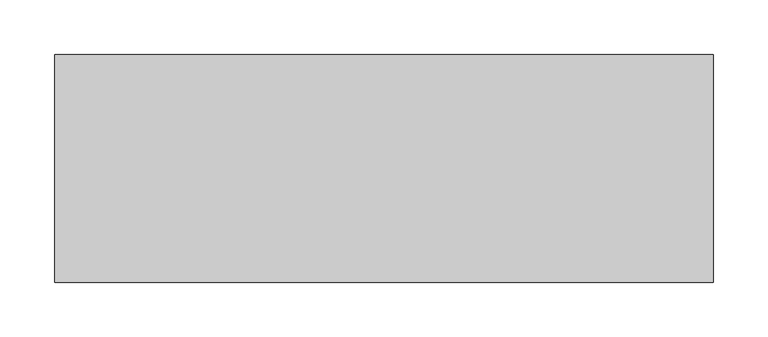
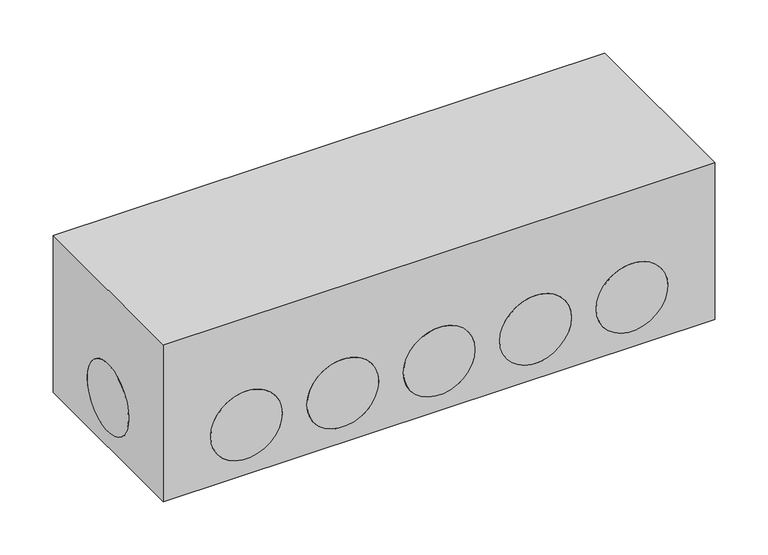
"""IFC4 building model written with IfcOpenShell, lengths in millimetres: duct fitting geometry, NLRS_57_DUF_UN_air plenum_M&G : 450#12 XL - DN150."""

from ifc_helpers import new_model, si_unit, point, frame, frame_2d, origin, place, context, project, spatial, polyline, circle_curve, trimmed, segment, composite_curve, outline, extrude, source, transform, mapped, element, save
from ifc_brep_helpers import plane_surface, revolved_surface, advanced_brep


def duct_fitting_d31180b6(model_context):
    return source(origin(), model_context, "Body", "SolidModel", [
        extrude(outline(composite_curve([segment(trimmed(circle_curve(frame_2d((0.0, 57.0)), 39.0), [point((-39.0, 57.0))], [point((39.0, 57.0))], False, "CARTESIAN"), True, "CONTINUOUS"), segment(trimmed(circle_curve(frame_2d((0.0, 57.0)), 39.0), [point((39.0, 57.0))], [point((-39.0, 57.0))], False, "CARTESIAN"), True, "CONTINUOUS")], self_intersect=False)), frame((297.5, 0.0, 0.0), z_axis=(1.0, 0.0, 0.0), x_axis=(0.0, 1.0, 0.0)), (0.0, 0.0, 1.0), 3.0),
        extrude(outline(composite_curve([segment(trimmed(circle_curve(frame_2d((0.0, 57.0)), 39.0), [point((-39.0, 57.0))], [point((39.0, 57.0))], False, "CARTESIAN"), True, "CONTINUOUS"), segment(trimmed(circle_curve(frame_2d((0.0, 57.0)), 39.0), [point((39.0, 57.0))], [point((-39.0, 57.0))], False, "CARTESIAN"), True, "CONTINUOUS")], self_intersect=False)), frame((-300.5, 0.0, 0.0), z_axis=(1.0, 0.0, 0.0), x_axis=(0.0, 1.0, 0.0)), (0.0, 0.0, 1.0), 3.0),
        extrude(outline(composite_curve([segment(trimmed(circle_curve(frame_2d((57.0, -210.0)), 39.0), [point((57.0, -249.0))], [point((57.0, -171.0))], False, "CARTESIAN"), True, "CONTINUOUS"), segment(trimmed(circle_curve(frame_2d((57.0, -210.0)), 39.0), [point((57.0, -171.0))], [point((57.0, -249.0))], False, "CARTESIAN"), True, "CONTINUOUS")], self_intersect=False)), frame((0.0, 101.0, 0.0), z_axis=(0.0, 1.0, 0.0), x_axis=(0.0, 0.0, 1.0)), (0.0, 0.0, 1.0), 3.0),
        extrude(outline(composite_curve([segment(trimmed(circle_curve(frame_2d((57.0, -105.0)), 39.0), [point((57.0, -144.0))], [point((57.0, -66.0))], False, "CARTESIAN"), True, "CONTINUOUS"), segment(trimmed(circle_curve(frame_2d((57.0, -105.0)), 39.0), [point((57.0, -66.0))], [point((57.0, -144.0))], False, "CARTESIAN"), True, "CONTINUOUS")], self_intersect=False)), frame((0.0, 101.0, 0.0), z_axis=(0.0, 1.0, 0.0), x_axis=(0.0, 0.0, 1.0)), (0.0, 0.0, 1.0), 3.0),
        extrude(outline(composite_curve([segment(trimmed(circle_curve(frame_2d((57.0, 0.0)), 39.0), [point((57.0, -39.0))], [point((57.0, 39.0))], False, "CARTESIAN"), True, "CONTINUOUS"), segment(trimmed(circle_curve(frame_2d((57.0, 0.0)), 39.0), [point((57.0, 39.0))], [point((57.0, -39.0))], False, "CARTESIAN"), True, "CONTINUOUS")], self_intersect=False)), frame((0.0, 101.0, 0.0), z_axis=(0.0, 1.0, 0.0), x_axis=(0.0, 0.0, 1.0)), (0.0, 0.0, 1.0), 3.0),
        extrude(outline(composite_curve([segment(trimmed(circle_curve(frame_2d((57.0, 105.0)), 39.0), [point((57.0, 66.0))], [point((57.0, 144.0))], False, "CARTESIAN"), True, "CONTINUOUS"), segment(trimmed(circle_curve(frame_2d((57.0, 105.0)), 39.0), [point((57.0, 144.0))], [point((57.0, 66.0))], False, "CARTESIAN"), True, "CONTINUOUS")], self_intersect=False)), frame((0.0, 101.0, 0.0), z_axis=(0.0, 1.0, 0.0), x_axis=(0.0, 0.0, 1.0)), (0.0, 0.0, 1.0), 3.0),
        extrude(outline(composite_curve([segment(trimmed(circle_curve(frame_2d((57.0, 210.0)), 39.0), [point((57.0, 171.0))], [point((57.0, 249.0))], False, "CARTESIAN"), True, "CONTINUOUS"), segment(trimmed(circle_curve(frame_2d((57.0, 210.0)), 39.0), [point((57.0, 249.0))], [point((57.0, 171.0))], False, "CARTESIAN"), True, "CONTINUOUS")], self_intersect=False)), frame((0.0, 101.0, 0.0), z_axis=(0.0, 1.0, 0.0), x_axis=(0.0, 0.0, 1.0)), (0.0, 0.0, 1.0), 3.0),
        extrude(outline(composite_curve([segment(trimmed(circle_curve(frame_2d((57.0, -210.0)), 39.0), [point((57.0, -249.0))], [point((57.0, -171.0))], False, "CARTESIAN"), True, "CONTINUOUS"), segment(trimmed(circle_curve(frame_2d((57.0, -210.0)), 39.0), [point((57.0, -171.0))], [point((57.0, -249.0))], False, "CARTESIAN"), True, "CONTINUOUS")], self_intersect=False)), frame((0.0, -104.0, 0.0), z_axis=(0.0, 1.0, 0.0), x_axis=(0.0, 0.0, 1.0)), (0.0, 0.0, 1.0), 3.0),
        extrude(outline(composite_curve([segment(trimmed(circle_curve(frame_2d((57.0, -105.0)), 39.0), [point((57.0, -144.0))], [point((57.0, -66.0))], False, "CARTESIAN"), True, "CONTINUOUS"), segment(trimmed(circle_curve(frame_2d((57.0, -105.0)), 39.0), [point((57.0, -66.0))], [point((57.0, -144.0))], False, "CARTESIAN"), True, "CONTINUOUS")], self_intersect=False)), frame((0.0, -104.0, 0.0), z_axis=(0.0, 1.0, 0.0), x_axis=(0.0, 0.0, 1.0)), (0.0, 0.0, 1.0), 3.0),
        extrude(outline(composite_curve([segment(trimmed(circle_curve(frame_2d((57.0, 0.0)), 39.0), [point((57.0, -39.0))], [point((57.0, 39.0))], False, "CARTESIAN"), True, "CONTINUOUS"), segment(trimmed(circle_curve(frame_2d((57.0, 0.0)), 39.0), [point((57.0, 39.0))], [point((57.0, -39.0))], False, "CARTESIAN"), True, "CONTINUOUS")], self_intersect=False)), frame((0.0, -104.0, 0.0), z_axis=(0.0, 1.0, 0.0), x_axis=(0.0, 0.0, 1.0)), (0.0, 0.0, 1.0), 3.0),
        extrude(outline(composite_curve([segment(trimmed(circle_curve(frame_2d((57.0, 105.0)), 39.0), [point((57.0, 66.0))], [point((57.0, 144.0))], False, "CARTESIAN"), True, "CONTINUOUS"), segment(trimmed(circle_curve(frame_2d((57.0, 105.0)), 39.0), [point((57.0, 144.0))], [point((57.0, 66.0))], False, "CARTESIAN"), True, "CONTINUOUS")], self_intersect=False)), frame((0.0, -104.0, 0.0), z_axis=(0.0, 1.0, 0.0), x_axis=(0.0, 0.0, 1.0)), (0.0, 0.0, 1.0), 3.0),
        extrude(outline(composite_curve([segment(trimmed(circle_curve(frame_2d((57.0, 210.0)), 39.0), [point((57.0, 171.0))], [point((57.0, 249.0))], False, "CARTESIAN"), True, "CONTINUOUS"), segment(trimmed(circle_curve(frame_2d((57.0, 210.0)), 39.0), [point((57.0, 249.0))], [point((57.0, 171.0))], False, "CARTESIAN"), True, "CONTINUOUS")], self_intersect=False)), frame((0.0, -104.0, 0.0), z_axis=(0.0, 1.0, 0.0), x_axis=(0.0, 0.0, 1.0)), (0.0, 0.0, 1.0), 3.0),
        advanced_brep(
        [(300.5, 104.0, 181.0), (-300.5, 104.0, 181.0), (-300.5, -104.0, 181.0), (300.5, -104.0, 181.0), (300.5, 104.0, 0.0), (300.5, -104.0, 0.0), (-300.5, -104.0, 0.0), (-300.5, 104.0, 0.0), (-249.0, 104.0, 57.0), (-171.0, 104.0, 57.0), (-144.0, 104.0, 57.0), (-66.0, 104.0, 57.0), (-39.0, 104.0, 57.0), (39.0, 104.0, 57.0), (66.0, 104.0, 57.0), (144.0, 104.0, 57.0), (171.0, 104.0, 57.0), (249.0, 104.0, 57.0), (-300.5, -39.0, 57.0), (-300.5, 39.0, 57.0), (-171.0, -104.0, 57.0), (-249.0, -104.0, 57.0), (-66.0, -104.0, 57.0), (-144.0, -104.0, 57.0), (39.0, -104.0, 57.0), (-39.0, -104.0, 57.0), (144.0, -104.0, 57.0), (66.0, -104.0, 57.0), (249.0, -104.0, 57.0), (171.0, -104.0, 57.0), (300.5, 39.0, 57.0), (300.5, -39.0, 57.0), (-249.0, -95.0, 57.0), (-171.0, -95.0, 57.0), (-144.0, -95.0, 57.0), (-66.0, -95.0, 57.0), (-39.0, -95.0, 57.0), (39.0, -95.0, 57.0), (66.0, -95.0, 57.0), (144.0, -95.0, 57.0), (171.0, -95.0, 57.0), (249.0, -95.0, 57.0), (-295.0, -39.0, 57.0), (-295.0, 39.0, 57.0), (-249.0, 95.0, 57.0), (-171.0, 95.0, 57.0), (-144.0, 95.0, 57.0), (-66.0, 95.0, 57.0), (-39.0, 95.0, 57.0), (39.0, 95.0, 57.0), (66.0, 95.0, 57.0), (144.0, 95.0, 57.0), (171.0, 95.0, 57.0), (249.0, 95.0, 57.0), (295.0, -39.0, 57.0), (295.0, 39.0, 57.0)],
        [
            (0, 1),
            (1, 2),
            (2, 3),
            (3, 0),
            (4, 5),
            (5, 6),
            (6, 7),
            (7, 4),
            (0, 4),
            (7, 1),
            (8, 9, circle_curve(frame((-210.0, 104.0, 57.0), z_axis=(0.0, -1.0, 0.0), x_axis=(1.0, 0.0, 0.0)), 39.0)),
            (9, 8, circle_curve(frame((-210.0, 104.0, 57.0), z_axis=(0.0, -1.0, 0.0), x_axis=(1.0, 0.0, 0.0)), 39.0)),
            (10, 11, circle_curve(frame((-105.0, 104.0, 57.0), z_axis=(0.0, -1.0, 0.0), x_axis=(1.0, 0.0, 0.0)), 39.0)),
            (11, 10, circle_curve(frame((-105.0, 104.0, 57.0), z_axis=(0.0, -1.0, 0.0), x_axis=(1.0, 0.0, 0.0)), 39.0)),
            (12, 13, circle_curve(frame((0.0, 104.0, 57.0), z_axis=(0.0, -1.0, 0.0), x_axis=(1.0, 0.0, 0.0)), 39.0)),
            (13, 12, circle_curve(frame((0.0, 104.0, 57.0), z_axis=(0.0, -1.0, 0.0), x_axis=(1.0, 0.0, 0.0)), 39.0)),
            (14, 15, circle_curve(frame((105.0, 104.0, 57.0), z_axis=(0.0, -1.0, 0.0), x_axis=(1.0, 0.0, 0.0)), 39.0)),
            (15, 14, circle_curve(frame((105.0, 104.0, 57.0), z_axis=(0.0, -1.0, 0.0), x_axis=(1.0, 0.0, 0.0)), 39.0)),
            (16, 17, circle_curve(frame((210.0, 104.0, 57.0), z_axis=(0.0, -1.0, 0.0), x_axis=(1.0, 0.0, 0.0)), 39.0)),
            (17, 16, circle_curve(frame((210.0, 104.0, 57.0), z_axis=(0.0, -1.0, 0.0), x_axis=(1.0, 0.0, 0.0)), 39.0)),
            (6, 2),
            (18, 19, circle_curve(frame((-300.5, 0.0, 57.0), z_axis=(1.0, 0.0, 0.0), x_axis=(0.0, 1.0, 0.0)), 39.0)),
            (19, 18, circle_curve(frame((-300.5, 0.0, 57.0), z_axis=(1.0, 0.0, 0.0), x_axis=(0.0, 1.0, 0.0)), 39.0)),
            (5, 3),
            (20, 21, circle_curve(frame((-210.0, -104.0, 57.0), z_axis=(0.0, 1.0, 0.0), x_axis=(1.0, 0.0, 0.0)), 39.0)),
            (21, 20, circle_curve(frame((-210.0, -104.0, 57.0), z_axis=(0.0, 1.0, 0.0), x_axis=(1.0, 0.0, 0.0)), 39.0)),
            (22, 23, circle_curve(frame((-105.0, -104.0, 57.0), z_axis=(0.0, 1.0, 0.0), x_axis=(1.0, 0.0, 0.0)), 39.0)),
            (23, 22, circle_curve(frame((-105.0, -104.0, 57.0), z_axis=(0.0, 1.0, 0.0), x_axis=(1.0, 0.0, 0.0)), 39.0)),
            (24, 25, circle_curve(frame((0.0, -104.0, 57.0), z_axis=(0.0, 1.0, 0.0), x_axis=(1.0, 0.0, 0.0)), 39.0)),
            (25, 24, circle_curve(frame((0.0, -104.0, 57.0), z_axis=(0.0, 1.0, 0.0), x_axis=(1.0, 0.0, 0.0)), 39.0)),
            (26, 27, circle_curve(frame((105.0, -104.0, 57.0), z_axis=(0.0, 1.0, 0.0), x_axis=(1.0, 0.0, 0.0)), 39.0)),
            (27, 26, circle_curve(frame((105.0, -104.0, 57.0), z_axis=(0.0, 1.0, 0.0), x_axis=(1.0, 0.0, 0.0)), 39.0)),
            (28, 29, circle_curve(frame((210.0, -104.0, 57.0), z_axis=(0.0, 1.0, 0.0), x_axis=(1.0, 0.0, 0.0)), 39.0)),
            (29, 28, circle_curve(frame((210.0, -104.0, 57.0), z_axis=(0.0, 1.0, 0.0), x_axis=(1.0, 0.0, 0.0)), 39.0)),
            (30, 31, circle_curve(frame((300.5, 0.0, 57.0), z_axis=(-1.0, 0.0, 0.0), x_axis=(0.0, 1.0, 0.0)), 39.0)),
            (31, 30, circle_curve(frame((300.5, 0.0, 57.0), z_axis=(-1.0, 0.0, 0.0), x_axis=(0.0, 1.0, 0.0)), 39.0)),
            (32, 33, circle_curve(frame((-210.0, -95.0, 57.0), z_axis=(0.0, -1.0, 0.0), x_axis=(1.0, 0.0, 0.0)), 39.0)),
            (33, 32, circle_curve(frame((-210.0, -95.0, 57.0), z_axis=(0.0, -1.0, 0.0), x_axis=(1.0, 0.0, 0.0)), 39.0)),
            (34, 35, circle_curve(frame((-105.0, -95.0, 57.0), z_axis=(0.0, -1.0, 0.0), x_axis=(1.0, 0.0, 0.0)), 39.0)),
            (35, 34, circle_curve(frame((-105.0, -95.0, 57.0), z_axis=(0.0, -1.0, 0.0), x_axis=(1.0, 0.0, 0.0)), 39.0)),
            (36, 37, circle_curve(frame((0.0, -95.0, 57.0), z_axis=(0.0, -1.0, 0.0), x_axis=(1.0, 0.0, 0.0)), 39.0)),
            (37, 36, circle_curve(frame((0.0, -95.0, 57.0), z_axis=(0.0, -1.0, 0.0), x_axis=(1.0, 0.0, 0.0)), 39.0)),
            (38, 39, circle_curve(frame((105.0, -95.0, 57.0), z_axis=(0.0, -1.0, 0.0), x_axis=(1.0, 0.0, 0.0)), 39.0)),
            (39, 38, circle_curve(frame((105.0, -95.0, 57.0), z_axis=(0.0, -1.0, 0.0), x_axis=(1.0, 0.0, 0.0)), 39.0)),
            (40, 41, circle_curve(frame((210.0, -95.0, 57.0), z_axis=(0.0, -1.0, 0.0), x_axis=(1.0, 0.0, 0.0)), 39.0)),
            (41, 40, circle_curve(frame((210.0, -95.0, 57.0), z_axis=(0.0, -1.0, 0.0), x_axis=(1.0, 0.0, 0.0)), 39.0)),
            (32, 21),
            (20, 33),
            (34, 23),
            (22, 35),
            (36, 25),
            (24, 37),
            (38, 27),
            (26, 39),
            (40, 29),
            (28, 41),
            (42, 43, circle_curve(frame((-295.0, 0.0, 57.0), z_axis=(-1.0, 0.0, 0.0), x_axis=(0.0, 1.0, 0.0)), 39.0)),
            (43, 42, circle_curve(frame((-295.0, 0.0, 57.0), z_axis=(-1.0, 0.0, 0.0), x_axis=(0.0, 1.0, 0.0)), 39.0)),
            (43, 19),
            (18, 42),
            (44, 45, circle_curve(frame((-210.0, 95.0, 57.0), z_axis=(0.0, 1.0, 0.0), x_axis=(1.0, 0.0, 0.0)), 39.0)),
            (45, 44, circle_curve(frame((-210.0, 95.0, 57.0), z_axis=(0.0, 1.0, 0.0), x_axis=(1.0, 0.0, 0.0)), 39.0)),
            (46, 47, circle_curve(frame((-105.0, 95.0, 57.0), z_axis=(0.0, 1.0, 0.0), x_axis=(1.0, 0.0, 0.0)), 39.0)),
            (47, 46, circle_curve(frame((-105.0, 95.0, 57.0), z_axis=(0.0, 1.0, 0.0), x_axis=(1.0, 0.0, 0.0)), 39.0)),
            (48, 49, circle_curve(frame((0.0, 95.0, 57.0), z_axis=(0.0, 1.0, 0.0), x_axis=(1.0, 0.0, 0.0)), 39.0)),
            (49, 48, circle_curve(frame((0.0, 95.0, 57.0), z_axis=(0.0, 1.0, 0.0), x_axis=(1.0, 0.0, 0.0)), 39.0)),
            (50, 51, circle_curve(frame((105.0, 95.0, 57.0), z_axis=(0.0, 1.0, 0.0), x_axis=(1.0, 0.0, 0.0)), 39.0)),
            (51, 50, circle_curve(frame((105.0, 95.0, 57.0), z_axis=(0.0, 1.0, 0.0), x_axis=(1.0, 0.0, 0.0)), 39.0)),
            (52, 53, circle_curve(frame((210.0, 95.0, 57.0), z_axis=(0.0, 1.0, 0.0), x_axis=(1.0, 0.0, 0.0)), 39.0)),
            (53, 52, circle_curve(frame((210.0, 95.0, 57.0), z_axis=(0.0, 1.0, 0.0), x_axis=(1.0, 0.0, 0.0)), 39.0)),
            (45, 9),
            (8, 44),
            (47, 11),
            (10, 46),
            (49, 13),
            (12, 48),
            (51, 15),
            (14, 50),
            (53, 17),
            (16, 52),
            (54, 55, circle_curve(frame((295.0, 0.0, 57.0), z_axis=(1.0, 0.0, 0.0), x_axis=(0.0, 1.0, 0.0)), 39.0)),
            (55, 54, circle_curve(frame((295.0, 0.0, 57.0), z_axis=(1.0, 0.0, 0.0), x_axis=(0.0, 1.0, 0.0)), 39.0)),
            (54, 31),
            (30, 55),
        ],
        [
            plane_surface(frame((-300.5, 104.0, 181.0), z_axis=(0.0, 0.0, 1.0), x_axis=(-1.0, 0.0, 0.0))),
            plane_surface(frame((-300.5, 104.0, 0.0), z_axis=(0.0, 0.0, -1.0), x_axis=(1.0, 0.0, 0.0))),
            plane_surface(frame((300.5, 104.0, 181.0), z_axis=(0.0, 1.0, 0.0), x_axis=(0.0, 0.0, -1.0))),
            plane_surface(frame((-300.5, 104.0, 181.0), z_axis=(-1.0, 0.0, 0.0), x_axis=(0.0, 0.0, -1.0))),
            plane_surface(frame((-300.5, -104.0, 181.0), z_axis=(0.0, -1.0, 0.0), x_axis=(0.0, 0.0, -1.0))),
            plane_surface(frame((300.5, -104.0, 181.0), z_axis=(1.0, 0.0, 0.0), x_axis=(0.0, 0.0, -1.0))),
            plane_surface(frame((-171.0, -95.0, 57.0), z_axis=(0.0, -1.0, 0.0), x_axis=(0.0, 0.0, -1.0))),
            revolved_surface(polyline([(-171.0, -104.0, 57.0), (-171.0, -95.0, 57.0)]), (-210.0, -95.0, 57.0), (0.0, -1.0, 0.0)),
            revolved_surface(polyline([(-66.0, -104.0, 57.0), (-66.0, -95.0, 57.0)]), (-105.0, 0.0, 57.0), (0.0, -1.0, 0.0)),
            revolved_surface(polyline([(39.0, -104.0, 57.0), (39.0, -95.0, 57.0)]), (0.0, 0.0, 57.0), (0.0, -1.0, 0.0)),
            revolved_surface(polyline([(144.0, -104.0, 57.0), (144.0, -95.0, 57.0)]), (105.0, 0.0, 57.0), (0.0, -1.0, 0.0)),
            revolved_surface(polyline([(249.0, -104.0, 57.0), (249.0, -95.0, 57.0)]), (210.0, 0.0, 57.0), (0.0, -1.0, 0.0)),
            plane_surface(frame((-295.0, 39.0, 57.0), z_axis=(-1.0, 0.0, 0.0), x_axis=(0.0, 0.0, 1.0))),
            revolved_surface(polyline([(-295.0, 39.0, 57.0), (-300.5, 39.0, 57.0)]), (-300.5, 0.0, 57.0), (1.0, 0.0, 0.0)),
            plane_surface(frame((-171.0, 95.0, 57.0), z_axis=(0.0, 1.0, 0.0), x_axis=(0.0, 0.0, 1.0))),
            revolved_surface(polyline([(-171.0, 95.0, 57.0), (-171.0, 104.0, 57.0)]), (-210.0, 104.0, 57.0), (0.0, -1.0, 0.0)),
            revolved_surface(polyline([(-66.0, 95.0, 57.0), (-66.0, 104.0, 57.0)]), (-105.0, 0.0, 57.0), (0.0, -1.0, 0.0)),
            revolved_surface(polyline([(39.0, 95.0, 57.0), (39.0, 104.0, 57.0)]), (0.0, 0.0, 57.0), (0.0, -1.0, 0.0)),
            revolved_surface(polyline([(144.0, 95.0, 57.0), (144.0, 104.0, 57.0)]), (105.0, 0.0, 57.0), (0.0, -1.0, 0.0)),
            revolved_surface(polyline([(249.0, 95.0, 57.0), (249.0, 104.0, 57.0)]), (210.0, 0.0, 57.0), (0.0, -1.0, 0.0)),
            plane_surface(frame((295.0, 39.0, 57.0), z_axis=(1.0, 0.0, 0.0), x_axis=(0.0, 0.0, -1.0))),
            revolved_surface(polyline([(300.5, 39.0, 57.0), (295.0, 39.0, 57.0)]), (295.0, 0.0, 57.0), (1.0, 0.0, 0.0)),
        ],
        [
            (0, [[1, 2, 3, 4]]),
            (1, [[5, 6, 7, 8]]),
            (2, [[-1, 9, -8, 10], [11, 12], [13, 14], [15, 16], [17, 18], [19, 20]]),
            (3, [[-2, -10, -7, 21], [22, 23]]),
            (4, [[-3, -21, -6, 24], [25, 26], [27, 28], [29, 30], [31, 32], [33, 34]]),
            (5, [[-4, -24, -5, -9], [35, 36]]),
            (6, [[37, 38]]),
            (6, [[39, 40]]),
            (6, [[41, 42]]),
            (6, [[43, 44]]),
            (6, [[45, 46]]),
            (7, [[-37, 47, -25, 48]]),
            (7, [[-38, -48, -26, -47]]),
            (8, [[-39, 49, -27, 50]]),
            (8, [[-40, -50, -28, -49]]),
            (9, [[-41, 51, -29, 52]]),
            (9, [[-42, -52, -30, -51]]),
            (10, [[-43, 53, -31, 54]]),
            (10, [[-44, -54, -32, -53]]),
            (11, [[-45, 55, -33, 56]]),
            (11, [[-46, -56, -34, -55]]),
            (12, [[57, 58]]),
            (13, [[-58, 59, -22, 60]]),
            (13, [[-57, -60, -23, -59]]),
            (14, [[61, 62]]),
            (14, [[63, 64]]),
            (14, [[65, 66]]),
            (14, [[67, 68]]),
            (14, [[69, 70]]),
            (15, [[-62, 71, -11, 72]]),
            (15, [[-61, -72, -12, -71]]),
            (16, [[-64, 73, -13, 74]]),
            (16, [[-63, -74, -14, -73]]),
            (17, [[-66, 75, -15, 76]]),
            (17, [[-65, -76, -16, -75]]),
            (18, [[-68, 77, -17, 78]]),
            (18, [[-67, -78, -18, -77]]),
            (19, [[-70, 79, -19, 80]]),
            (19, [[-69, -80, -20, -79]]),
            (20, [[81, 82]]),
            (21, [[-81, 83, -35, 84]]),
            (21, [[-82, -84, -36, -83]]),
        ],
    ),
    ])


if __name__ == "__main__":
    model = new_model("IFC4")
    model_context = context("Model", 3, world=origin())
    ifc_project = project(units=[si_unit("LENGTHUNIT", "METRE", prefix="MILLI")], contexts=[model_context])
    site = spatial("IfcSite", under=ifc_project)
    building = spatial("IfcBuilding", under=site)
    placement = place(None, origin())
    duct_fitting_shape = duct_fitting_d31180b6(model_context)
    element("IfcDuctFitting", 1, ObjectType="NLRS_57_DUF_UN_air plenum_M&G : 450#12 XL - DN150", at=placement, inside=building, context=model_context, shape_type="MappedRepresentation", body=[
        mapped(duct_fitting_shape, transform((0.0, 0.0, 0.0), x_axis=(1.0, 0.0, 0.0), y_axis=(0.0, 1.0, 0.0), z_axis=(0.0, 0.0, 1.0))),
    ])
    save(model, "model.ifc")
